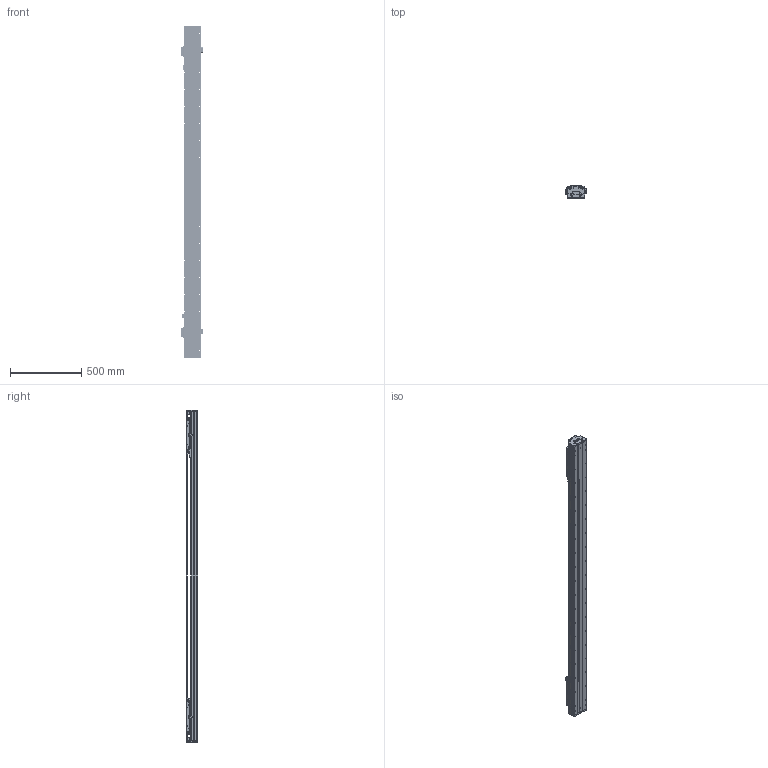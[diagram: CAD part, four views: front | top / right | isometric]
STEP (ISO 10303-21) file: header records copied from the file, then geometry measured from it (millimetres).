
FILE_DESCRIPTION (( 'STEP AP203' ), '1' );
FILE_NAME ('DKW120-2×B3-W060（T1700-L005-0.2）.STEP', '2021-09-29T01:40:02', ( '微软用户' ), ( '微软中国' ), 'SwSTEP 2.0', 'SolidWorks 2018', '' );
FILE_SCHEMA (( 'CONFIG_CONTROL_DESIGN' ));
Length unit declared in the file: millimetre
Products named in the file (22): DKW-HXJ-JY-00 遣喳砎蝶; 06652-0001-001-00 DKW120傷啣; DKW120-2×B3-W060（T1700-L005-0.2）; DKW119-RU-DTJ-00 RU2黍杅芛盓殤; 10940-0001-004-00 120詩湍裔啣; 10980-0001-003-00 嫖萇羲壽嘐隅釱; 砎蝶猾沭; DKW-SG-GYP-H-00 嫖萇覜茼え; 12160-0000-003-00 DKW120詩湍嶺輸; EE_SX674A; 12160-0000-004-00  DKW120詩湍揤輸; B3-W060_00; DKW120 单轴模组-拉钢带组件; DKW-DG-XJ-Z-00 笢潔滅袉砎蝶; BKMA01-W060-TRL280; DKW120-B15-T300-DZ-00 菁釱; DKW-GYP-ZJ-00 笢潔嫖萇覜茼え; RUS嫖掑喜; 06652-0001-004-00 DKW120嶺輸菜輸; MSB15-DG-U; DKW-KGZ-ZJ-00 中间光电开关支架; Ru2
Assembly tree (41 placements, depth 3):
  DKW120-2×B3-W060（T1700-L005-0.2）
    DKW120-B15-T300-DZ-00 菁釱
    MSB15-DG-U  x2
    DKW120 单轴模组-拉钢带组件
      06652-0001-001-00 DKW120傷啣  x2
      06652-0001-004-00 DKW120嶺輸菜輸  x4
      DKW-HXJ-JY-00 遣喳砎蝶  x4
      10940-0001-004-00 120詩湍裔啣
      砎蝶猾沭  x2
      12160-0000-003-00 DKW120詩湍嶺輸  x2
      12160-0000-004-00  DKW120詩湍揤輸  x2
    BKMA01-W060-TRL280
    RUS嫖掑喜
    Ru2  x2
    DKW119-RU-DTJ-00 RU2黍杅芛盓殤  x2
    10980-0001-003-00 嫖萇羲壽嘐隅釱  x2
    DKW-SG-GYP-H-00 嫖萇覜茼え  x2
    EE_SX674A  x5
    B3-W060_00  x2
    DKW-DG-XJ-Z-00 笢潔滅袉砎蝶
    DKW-GYP-ZJ-00 笢潔嫖萇覜茼え
    DKW-KGZ-ZJ-00 中间光电开关支架
Bounding box: 154.1 x 84 x 2336 mm (x, y, z)
Volume: 8974351.1 mm3; surface area: 3409719.6 mm2
Topology: 60 solids, 158 shells, 6764 faces, 18454 edges, 11891 vertices
Faces by surface type: plane 3682, cylinder 2068, cone 520, bspline 494
Entity records: 148806 total; most frequent: CARTESIAN_POINT 50738, ORIENTED_EDGE 20357, DIRECTION 18982, EDGE_CURVE 10219, VERTEX_POINT 6709, AXIS2_PLACEMENT_3D 6414, LINE 6154, VECTOR 6154
